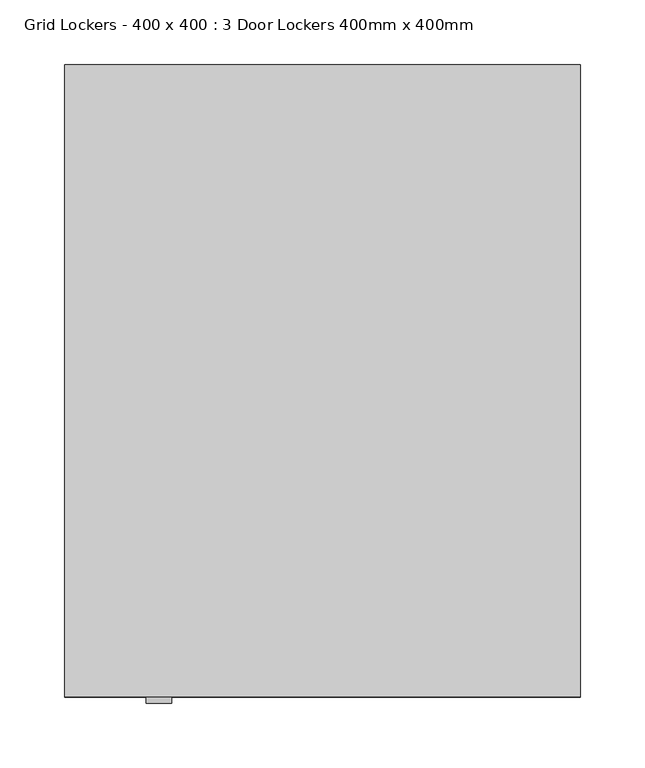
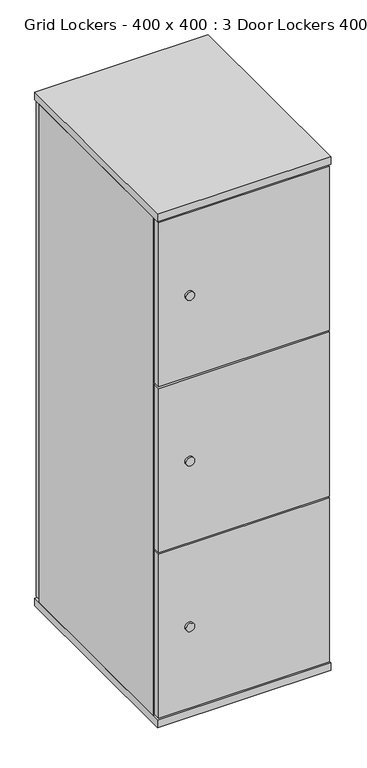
"""IFC4 building model written with IfcOpenShell, lengths in millimetres: furniture geometry, Grid Lockers - 400 x 400 : 3 Door Lockers 400mm x 400mm."""

from ifc_helpers import new_model, si_unit, point, frame, frame_2d, origin, origin_with_axes, place, context, project, spatial, polyline, circle_curve, trimmed, segment, composite_curve, outline, extrude, source, transform, mapped, element, save


def grid_lockers_400_x_400_3_door_lockers_400mm_x_400mm_c8f0e673(model_context):
    return source(origin(), model_context, "Body", "SweptSolid", [
        extrude(outline(composite_curve([segment(trimmed(circle_curve(frame_2d((1039.7649573, 73.2979632)), 10.0), [point((1039.7649573, 63.2979632))], [point((1039.7649573, 83.2979632))], False, "CARTESIAN"), True, "CONTINUOUS"), segment(trimmed(circle_curve(frame_2d((1039.7649573, 73.2979632)), 10.0), [point((1039.7649573, 83.2979632))], [point((1039.7649573, 63.2979632))], False, "CARTESIAN"), True, "CONTINUOUS")], self_intersect=False)), frame((0.0, -495.0, 0.0), z_axis=(0.0, 1.0, 0.0), x_axis=(0.0, 0.0, 1.0)), (0.0, 0.0, 1.0), 5.0),
        extrude(outline(polyline([(397.0, -490.0), (3.0, -490.0), (3.0, -472.0), (397.0, -472.0), (397.0, -490.0)])), frame((0.0, 0.0, 839.8871808), z_axis=(0.0, 0.0, 1.0), x_axis=(1.0, 0.0, 0.0)), (0.0, 0.0, 1.0), 400.0),
        extrude(outline(composite_curve([segment(trimmed(circle_curve(frame_2d((635.9435904, 73.2979632)), 10.0), [point((635.9435904, 63.2979632))], [point((635.9435904, 83.2979632))], False, "CARTESIAN"), True, "CONTINUOUS"), segment(trimmed(circle_curve(frame_2d((635.9435904, 73.2979632)), 10.0), [point((635.9435904, 83.2979632))], [point((635.9435904, 63.2979632))], False, "CARTESIAN"), True, "CONTINUOUS")], self_intersect=False)), frame((0.0, -495.0, 0.0), z_axis=(0.0, 1.0, 0.0), x_axis=(0.0, 0.0, 1.0)), (0.0, 0.0, 1.0), 5.0),
        extrude(outline(polyline([(397.0, -490.0), (3.0, -490.0), (3.0, -472.0), (397.0, -472.0), (397.0, -490.0)])), frame((0.0, 0.0, 435.9435904), z_axis=(0.0, 0.0, 1.0), x_axis=(1.0, 0.0, 0.0)), (0.0, 0.0, 1.0), 400.0),
        extrude(outline(composite_curve([segment(trimmed(circle_curve(frame_2d((350.0, -50.0)), 15.0), [point((335.0, -50.0))], [point((365.0, -50.0))], False, "CARTESIAN"), True, "CONTINUOUS"), segment(trimmed(circle_curve(frame_2d((350.0, -50.0)), 15.0), [point((365.0, -50.0))], [point((335.0, -50.0))], False, "CARTESIAN"), True, "CONTINUOUS")], self_intersect=False)), origin_with_axes(), (0.0, 0.0, 1.0), 10.0),
        extrude(outline(composite_curve([segment(trimmed(circle_curve(frame_2d((50.0, -50.0)), 15.0), [point((35.0, -50.0))], [point((65.0, -50.0))], False, "CARTESIAN"), True, "CONTINUOUS"), segment(trimmed(circle_curve(frame_2d((50.0, -50.0)), 15.0), [point((65.0, -50.0))], [point((35.0, -50.0))], False, "CARTESIAN"), True, "CONTINUOUS")], self_intersect=False)), origin_with_axes(), (0.0, 0.0, 1.0), 10.0),
        extrude(outline(composite_curve([segment(trimmed(circle_curve(frame_2d((50.0, -440.0)), 15.0), [point((35.0, -440.0))], [point((65.0, -440.0))], False, "CARTESIAN"), True, "CONTINUOUS"), segment(trimmed(circle_curve(frame_2d((50.0, -440.0)), 15.0), [point((65.0, -440.0))], [point((35.0, -440.0))], False, "CARTESIAN"), True, "CONTINUOUS")], self_intersect=False)), origin_with_axes(), (0.0, 0.0, 1.0), 10.0),
        extrude(outline(composite_curve([segment(trimmed(circle_curve(frame_2d((350.0, -440.0)), 15.0), [point((335.0, -440.0))], [point((365.0, -440.0))], False, "CARTESIAN"), True, "CONTINUOUS"), segment(trimmed(circle_curve(frame_2d((350.0, -440.0)), 15.0), [point((365.0, -440.0))], [point((335.0, -440.0))], False, "CARTESIAN"), True, "CONTINUOUS")], self_intersect=False)), origin_with_axes(), (0.0, 0.0, 1.0), 10.0),
        extrude(outline(polyline([(400.0, -490.0), (0.0, -490.0), (0.0, 0.0), (400.0, 0.0), (400.0, -490.0)])), frame((0.0, 0.0, 1244.0), z_axis=(0.0, 0.0, 1.0), x_axis=(1.0, 0.0, 0.0)), (0.0, 0.0, 1.0), 18.0),
        extrude(outline(polyline([(400.0, -490.0), (0.0, -490.0), (0.0, 0.0), (400.0, 0.0), (400.0, -490.0)])), frame((0.0, 0.0, 10.0), z_axis=(0.0, 0.0, 1.0), x_axis=(1.0, 0.0, 0.0)), (0.0, 0.0, 1.0), 18.0),
        extrude(outline(composite_curve([segment(trimmed(circle_curve(frame_2d((232.1222235, 73.2979632)), 10.0), [point((232.1222235, 63.2979632))], [point((232.1222235, 83.2979632))], False, "CARTESIAN"), True, "CONTINUOUS"), segment(trimmed(circle_curve(frame_2d((232.1222235, 73.2979632)), 10.0), [point((232.1222235, 83.2979632))], [point((232.1222235, 63.2979632))], False, "CARTESIAN"), True, "CONTINUOUS")], self_intersect=False)), frame((0.0, -495.0, 0.0), z_axis=(0.0, 1.0, 0.0), x_axis=(0.0, 0.0, 1.0)), (0.0, 0.0, 1.0), 5.0),
        extrude(outline(polyline([(397.0, -490.0), (3.0, -490.0), (3.0, -472.0), (397.0, -472.0), (397.0, -490.0)])), frame((0.0, 0.0, 32.0), z_axis=(0.0, 0.0, 1.0), x_axis=(1.0, 0.0, 0.0)), (0.0, 0.0, 1.0), 400.0),
        extrude(outline(polyline([(400.0, -18.0), (400.0, -472.0), (0.0, -472.0), (0.0, -18.0), (400.0, -18.0)])), frame((0.0, 0.0, 28.0), z_axis=(0.0, 0.0, 1.0), x_axis=(1.0, 0.0, 0.0)), (0.0, 0.0, 1.0), 1216.0),
        extrude(outline(polyline([(397.0, 0.0), (397.0, -18.0), (3.0, -18.0), (3.0, 0.0), (397.0, 0.0)])), frame((0.0, 0.0, 32.0), z_axis=(0.0, 0.0, 1.0), x_axis=(1.0, 0.0, 0.0)), (0.0, 0.0, 1.0), 1212.0),
    ])


if __name__ == "__main__":
    model = new_model("IFC4")
    model_context = context("Model", 3, world=origin())
    ifc_project = project(units=[si_unit("LENGTHUNIT", "METRE", prefix="MILLI")], contexts=[model_context])
    site = spatial("IfcSite", under=ifc_project)
    building = spatial("IfcBuilding", under=site)
    placement = place(None, origin())
    grid_lockers_400_x_400_3_door_lockers_400mm_x_400mm_shape = grid_lockers_400_x_400_3_door_lockers_400mm_x_400mm_c8f0e673(model_context)
    element("IfcFurniture", 1, ObjectType="Grid Lockers - 400 x 400 : 3 Door Lockers 400mm x 400mm", at=placement, inside=building, context=model_context, shape_type="MappedRepresentation", body=[
        mapped(grid_lockers_400_x_400_3_door_lockers_400mm_x_400mm_shape, transform((0.0, 0.0, 0.0), x_axis=(1.0, 0.0, 0.0), y_axis=(0.0, 1.0, 0.0), z_axis=(0.0, 0.0, 1.0))),
    ])
    save(model, "model.ifc")
